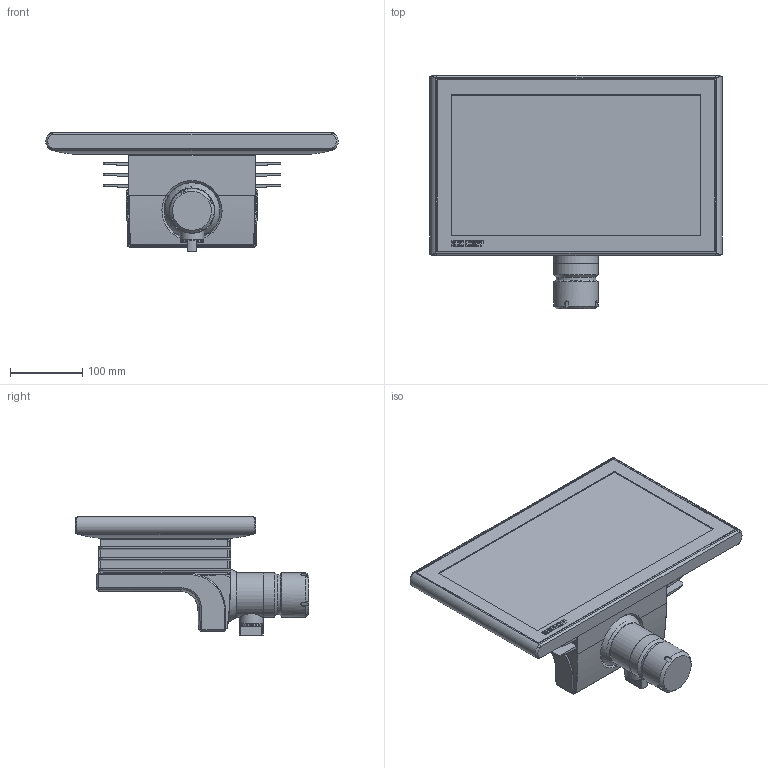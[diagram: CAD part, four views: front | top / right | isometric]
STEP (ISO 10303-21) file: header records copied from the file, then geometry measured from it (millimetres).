
FILE_DESCRIPTION(/* description */ (''),/* implementation_level */ '2;1');
FILE_NAME(/* name */ 'X:\0-inventor\0-3d-Teile\PC-Compo\solids\CP3xxx\0-Ausgabe\CP3716-M184.stp',/* time_stamp */ '2015-10-05T15:19:01+02:00',/* author */ ('christiankreuzer'),/* organization */ ('Design-AG'),/* preprocessor_version */ 'ST-DEVELOPER v16.1',/* originating_system */ 'Autodesk Inventor 2016',/* authorisation */ '');
FILE_SCHEMA (('AUTOMOTIVE_DESIGN { 1 0 10303 214 3 1 1 }'));
Length unit declared in the file: millimetre
Products named in the file (1): CP3716-M184-Step
Bounding box: 405.77 x 324.45 x 164.84 mm (x, y, z)
Volume: 4052920 mm3; surface area: 663817.4 mm2
Topology: 7 solids, 9 shells, 992 faces, 2554 edges, 1625 vertices
Faces by surface type: plane 532, cylinder 288, bspline 101, cone 46, torus 18, sphere 7
Full cylindrical faces by diameter (mm): 5 x1, 6.5 x1, 10.5 x1, 17 x1, 19.5 x1, 22.9 x1, 24 x1, 26 x1, 33 x1, 55 x1, 62 x3, 65.074 x1
Entity records: 35413 total; most frequent: CARTESIAN_POINT 10601, ORIENTED_EDGE 5030, DIRECTION 4715, EDGE_CURVE 2513, LINE 1621, VECTOR 1621, VERTEX_POINT 1613, AXIS2_PLACEMENT_3D 1547
